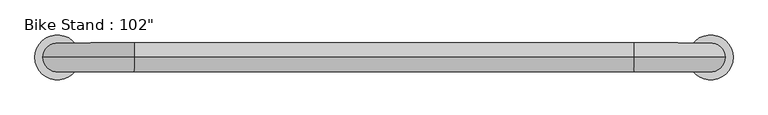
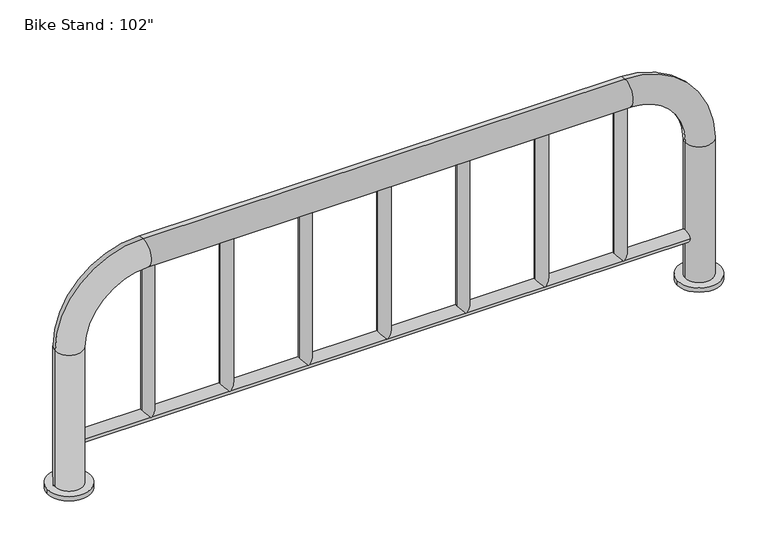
"""IFC4 building model written with IfcOpenShell, lengths in millimetres: geographic element geometry."""

from ifc_helpers import new_model, si_unit, point, frame, frame_2d, origin, origin_with_axes, place, context, project, spatial, circle_curve, ellipse_curve, trimmed, segment, composite_curve, outline, extrude, source, transform, mapped, element, save
from ifc_brep_helpers import plane_surface, cylinder_surface, revolved_surface, advanced_brep


def geographic_element_50e47716(model_context):
    return source(origin(), model_context, "Body", "SolidModel", [
        extrude(outline(composite_curve([segment(trimmed(circle_curve(frame_2d((-488.1594911, 0.0)), 25.4), [point((-513.5594911, 0.0))], [point((-462.7594911, 0.0))], False, "CARTESIAN"), True, "CONTINUOUS"), segment(trimmed(circle_curve(frame_2d((-488.1594911, 0.0)), 25.4), [point((-462.7594911, 0.0))], [point((-513.5594911, 0.0))], False, "CARTESIAN"), True, "CONTINUOUS")], self_intersect=False)), frame((0.0, 0.0, 203.2), z_axis=(0.0, 0.0, 1.0), x_axis=(1.0, 0.0, 0.0)), (0.0, 0.0, 1.0), 711.2),
        extrude(outline(composite_curve([segment(trimmed(circle_curve(frame_2d((-164.3094911, 0.0)), 25.4), [point((-189.7094911, 0.0))], [point((-138.9094911, 0.0))], False, "CARTESIAN"), True, "CONTINUOUS"), segment(trimmed(circle_curve(frame_2d((-164.3094911, 0.0)), 25.4), [point((-138.9094911, 0.0))], [point((-189.7094911, 0.0))], False, "CARTESIAN"), True, "CONTINUOUS")], self_intersect=False)), frame((0.0, 0.0, 203.2), z_axis=(0.0, 0.0, 1.0), x_axis=(1.0, 0.0, 0.0)), (0.0, 0.0, 1.0), 711.2),
        extrude(outline(composite_curve([segment(trimmed(circle_curve(frame_2d((159.5405089, 0.0)), 25.4), [point((134.1405089, 0.0))], [point((184.9405089, 0.0))], False, "CARTESIAN"), True, "CONTINUOUS"), segment(trimmed(circle_curve(frame_2d((159.5405089, 0.0)), 25.4), [point((184.9405089, 0.0))], [point((134.1405089, 0.0))], False, "CARTESIAN"), True, "CONTINUOUS")], self_intersect=False)), frame((0.0, 0.0, 203.2), z_axis=(0.0, 0.0, 1.0), x_axis=(1.0, 0.0, 0.0)), (0.0, 0.0, 1.0), 711.2),
        extrude(outline(composite_curve([segment(trimmed(circle_curve(frame_2d((483.3905089, 0.0)), 25.4), [point((457.9905089, 0.0))], [point((508.7905089, 0.0))], False, "CARTESIAN"), True, "CONTINUOUS"), segment(trimmed(circle_curve(frame_2d((483.3905089, 0.0)), 25.4), [point((508.7905089, 0.0))], [point((457.9905089, 0.0))], False, "CARTESIAN"), True, "CONTINUOUS")], self_intersect=False)), frame((0.0, 0.0, 203.2), z_axis=(0.0, 0.0, 1.0), x_axis=(1.0, 0.0, 0.0)), (0.0, 0.0, 1.0), 711.2),
        extrude(outline(composite_curve([segment(trimmed(circle_curve(frame_2d((807.2405089, 0.0)), 25.4), [point((781.8405089, 0.0))], [point((832.6405089, 0.0))], False, "CARTESIAN"), True, "CONTINUOUS"), segment(trimmed(circle_curve(frame_2d((807.2405089, 0.0)), 25.4), [point((832.6405089, 0.0))], [point((781.8405089, 0.0))], False, "CARTESIAN"), True, "CONTINUOUS")], self_intersect=False)), frame((0.0, 0.0, 203.2), z_axis=(0.0, 0.0, 1.0), x_axis=(1.0, 0.0, 0.0)), (0.0, 0.0, 1.0), 711.2),
        extrude(outline(composite_curve([segment(trimmed(circle_curve(frame_2d((1131.0905089, 0.0)), 25.4), [point((1105.6905089, 0.0))], [point((1156.4905089, 0.0))], False, "CARTESIAN"), True, "CONTINUOUS"), segment(trimmed(circle_curve(frame_2d((1131.0905089, 0.0)), 25.4), [point((1156.4905089, 0.0))], [point((1105.6905089, 0.0))], False, "CARTESIAN"), True, "CONTINUOUS")], self_intersect=False)), frame((0.0, 0.0, 203.2), z_axis=(0.0, 0.0, 1.0), x_axis=(1.0, 0.0, 0.0)), (0.0, 0.0, 1.0), 711.2),
        extrude(outline(composite_curve([segment(trimmed(circle_curve(frame_2d((1454.9405089, 0.0)), 25.4), [point((1429.5405089, 0.0))], [point((1480.3405089, 0.0))], False, "CARTESIAN"), True, "CONTINUOUS"), segment(trimmed(circle_curve(frame_2d((1454.9405089, 0.0)), 25.4), [point((1480.3405089, 0.0))], [point((1429.5405089, 0.0))], False, "CARTESIAN"), True, "CONTINUOUS")], self_intersect=False)), frame((0.0, 0.0, 203.2), z_axis=(0.0, 0.0, 1.0), x_axis=(1.0, 0.0, 0.0)), (0.0, 0.0, 1.0), 711.2),
        extrude(outline(composite_curve([segment(trimmed(circle_curve(frame_2d((0.0, 203.2)), 25.4), [point((-25.4, 203.2))], [point((25.4, 203.2))], False, "CARTESIAN"), True, "CONTINUOUS"), segment(trimmed(circle_curve(frame_2d((0.0, 203.2)), 25.4), [point((25.4, 203.2))], [point((-25.4, 203.2))], False, "CARTESIAN"), True, "CONTINUOUS")], self_intersect=False)), frame((-812.0094911, 0.0, 0.0), z_axis=(1.0, 0.0, 0.0), x_axis=(0.0, 1.0, 0.0)), (0.0, 0.0, 1.0), 2590.8),
        extrude(outline(composite_curve([segment(trimmed(circle_curve(frame_2d((-812.0094911, 0.0)), 88.9), [point((-900.9094911, 0.0))], [point((-723.1094911, 0.0))], False, "CARTESIAN"), True, "CONTINUOUS"), segment(trimmed(circle_curve(frame_2d((-812.0094911, 0.0)), 88.9), [point((-723.1094911, 0.0))], [point((-900.9094911, 0.0))], False, "CARTESIAN"), True, "CONTINUOUS")], self_intersect=False)), origin_with_axes(), (0.0, 0.0, 1.0), 19.05),
        extrude(outline(composite_curve([segment(trimmed(circle_curve(frame_2d((1778.7905089, 0.0)), 88.9), [point((1689.8905089, 0.0))], [point((1867.6905089, 0.0))], False, "CARTESIAN"), True, "CONTINUOUS"), segment(trimmed(circle_curve(frame_2d((1778.7905089, 0.0)), 88.9), [point((1867.6905089, 0.0))], [point((1689.8905089, 0.0))], False, "CARTESIAN"), True, "CONTINUOUS")], self_intersect=False)), origin_with_axes(), (0.0, 0.0, 1.0), 19.05),
        advanced_brep(
        [(-754.8594911, 0.0, 0.0), (-869.1594911, 0.0, 0.0), (-754.8594911, 0.0, 609.6), (-869.1594911, 0.0, 609.6), (-507.2094911, 0.0, 971.55), (-507.2094911, 0.0, 857.25), (1473.9905089, 0.0, 857.25), (1473.9905089, 0.0, 971.55), (1835.9405089, 0.0, 609.6), (1721.6405089, 0.0, 609.6), (1721.6405089, 0.0, 0.0), (1835.9405089, 0.0, 0.0)],
        [
            (0, 1, circle_curve(frame((-812.0094911, 0.0, 0.0), z_axis=(0.0, 0.0, -1.0), x_axis=(-1.0, 0.0, 0.0)), 57.15)),
            (1, 0, circle_curve(frame((-812.0094911, 0.0, 0.0), z_axis=(0.0, 0.0, -1.0), x_axis=(-1.0, 0.0, 0.0)), 57.15)),
            (0, 2),
            (2, 3, circle_curve(frame((-812.0094911, 0.0, 609.6), z_axis=(0.0, 0.0, -1.0), x_axis=(-1.0, 0.0, 0.0)), 57.15)),
            (3, 1),
            (3, 2, circle_curve(frame((-812.0094911, 0.0, 609.6), z_axis=(0.0, 0.0, -1.0), x_axis=(-1.0, 0.0, 0.0)), 57.15)),
            (4, 3, circle_curve(frame((-507.2094911, 0.0, 609.6), z_axis=(0.0, -1.0, 0.0), x_axis=(-1.0, 0.0, 0.0)), 361.95)),
            (2, 5, circle_curve(frame((-507.2094911, 0.0, 609.6), z_axis=(0.0, 1.0, 0.0), x_axis=(-1.0, 0.0, 0.0)), 247.65)),
            (5, 4, circle_curve(frame((-507.2094911, 0.0, 914.4), z_axis=(-1.0, 0.0, 0.0), x_axis=(0.0, 0.0, 1.0)), 57.15)),
            (4, 5, circle_curve(frame((-507.2094911, 0.0, 914.4), z_axis=(-1.0, 0.0, 0.0), x_axis=(0.0, 0.0, 1.0)), 57.15)),
            (5, 6),
            (6, 7, circle_curve(frame((1473.9905089, 0.0, 914.4), z_axis=(-1.0, 0.0, 0.0), x_axis=(0.0, 0.0, 1.0)), 57.15)),
            (7, 4),
            (7, 6, circle_curve(frame((1473.9905089, 0.0, 914.4), z_axis=(-1.0, 0.0, 0.0), x_axis=(0.0, 0.0, 1.0)), 57.15)),
            (8, 7, circle_curve(frame((1473.9905089, 0.0, 609.6), z_axis=(0.0, -1.0, 0.0), x_axis=(0.0, 0.0, 1.0)), 361.95)),
            (6, 9, circle_curve(frame((1473.9905089, 0.0, 609.6), z_axis=(0.0, 1.0, 0.0), x_axis=(0.0, 0.0, 1.0)), 247.65)),
            (9, 8, circle_curve(frame((1778.7905089, 0.0, 609.6), z_axis=(0.0, 0.0, 1.0), x_axis=(1.0, 0.0, 0.0)), 57.15)),
            (8, 9, circle_curve(frame((1778.7905089, 0.0, 609.6), z_axis=(0.0, 0.0, 1.0), x_axis=(1.0, 0.0, 0.0)), 57.15)),
            (10, 11, circle_curve(frame((1778.7905089, 0.0, 0.0), z_axis=(0.0, 0.0, -1.0), x_axis=(1.0, 0.0, 0.0)), 57.15)),
            (11, 10, circle_curve(frame((1778.7905089, 0.0, 0.0), z_axis=(0.0, 0.0, -1.0), x_axis=(1.0, 0.0, 0.0)), 57.15)),
            (9, 10),
            (11, 8),
        ],
        [
            plane_surface(frame((-812.0094911, -57.15, 0.0), z_axis=(0.0, 0.0, -1.0), x_axis=(1.0, 0.0, 0.0))),
            cylinder_surface(frame((-812.0094911, 0.0, 0.0), z_axis=(0.0, 0.0, -1.0), x_axis=(-1.0, 0.0, 0.0)), 57.15),
            revolved_surface(trimmed(ellipse_curve(frame((-812.0094911, 0.0, 609.6), z_axis=(0.0, 0.0, -1.0), x_axis=(-1.0, 0.0, 0.0)), 57.15, 57.15), [point((-754.8594911, 0.0, 609.6))], [point((-869.1594911, 0.0, 609.6))], True, "CARTESIAN"), (-507.2094911, 0.0, 609.6), (0.0, 1.0, 0.0)),
            revolved_surface(trimmed(ellipse_curve(frame((-812.0094911, 0.0, 609.6), z_axis=(0.0, 0.0, -1.0), x_axis=(-1.0, 0.0, 0.0)), 57.15, 57.15), [point((-869.1594911, 0.0, 609.6))], [point((-754.8594911, 0.0, 609.6))], True, "CARTESIAN"), (-507.2094911, 0.0, 609.6), (0.0, 1.0, 0.0)),
            cylinder_surface(frame((-507.2094911, 0.0, 914.4), z_axis=(-1.0, 0.0, 0.0), x_axis=(0.0, 0.0, 1.0)), 57.15),
            revolved_surface(trimmed(ellipse_curve(frame((1473.9905089, 0.0, 914.4), z_axis=(-1.0, 0.0, 0.0), x_axis=(0.0, 0.0, 1.0)), 57.15, 57.15), [point((1473.9905089, 0.0, 857.25))], [point((1473.9905089, 0.0, 971.55))], True, "CARTESIAN"), (1473.9905089, 0.0, 609.6), (0.0, 1.0, 0.0)),
            revolved_surface(trimmed(ellipse_curve(frame((1473.9905089, 0.0, 914.4), z_axis=(-1.0, 0.0, 0.0), x_axis=(0.0, 0.0, 1.0)), 57.15, 57.15), [point((1473.9905089, 0.0, 971.55))], [point((1473.9905089, 0.0, 857.25))], True, "CARTESIAN"), (1473.9905089, 0.0, 609.6), (0.0, 1.0, 0.0)),
            plane_surface(frame((1778.7905089, -57.15, 0.0), z_axis=(0.0, 0.0, -1.0), x_axis=(-1.0, 0.0, 0.0))),
            cylinder_surface(frame((1778.7905089, 0.0, 609.6), z_axis=(0.0, 0.0, 1.0), x_axis=(1.0, 0.0, 0.0)), 57.15),
        ],
        [
            (0, [[1, 2]]),
            (1, [[-1, 3, 4, 5]]),
            (1, [[-2, -5, 6, -3]]),
            (2, [[7, -4, 8, 9]]),
            (3, [[-8, -6, -7, 10]]),
            (4, [[-9, 11, 12, 13]]),
            (4, [[-10, -13, 14, -11]]),
            (5, [[15, -12, 16, 17]]),
            (6, [[-16, -14, -15, 18]]),
            (7, [[19, 20]]),
            (8, [[-17, 21, -20, 22]]),
            (8, [[-18, -22, -19, -21]]),
        ],
    ),
    ])


if __name__ == "__main__":
    model = new_model("IFC4")
    model_context = context("Model", 3, world=origin())
    ifc_project = project(units=[si_unit("LENGTHUNIT", "METRE", prefix="MILLI")], contexts=[model_context])
    site = spatial("IfcSite", under=ifc_project)
    building = spatial("IfcBuilding", under=site)
    placement = place(None, origin())
    geographic_element_shape = geographic_element_50e47716(model_context)
    element("IfcGeographicElement", 1, ObjectType="Bike Stand : 102\"", at=placement, inside=building, context=model_context, shape_type="MappedRepresentation", body=[
        mapped(geographic_element_shape, transform((0.0, 0.0, 0.0), x_axis=(1.0, 0.0, 0.0), y_axis=(0.0, 1.0, 0.0), z_axis=(0.0, 0.0, 1.0))),
    ])
    save(model, "model.ifc")
